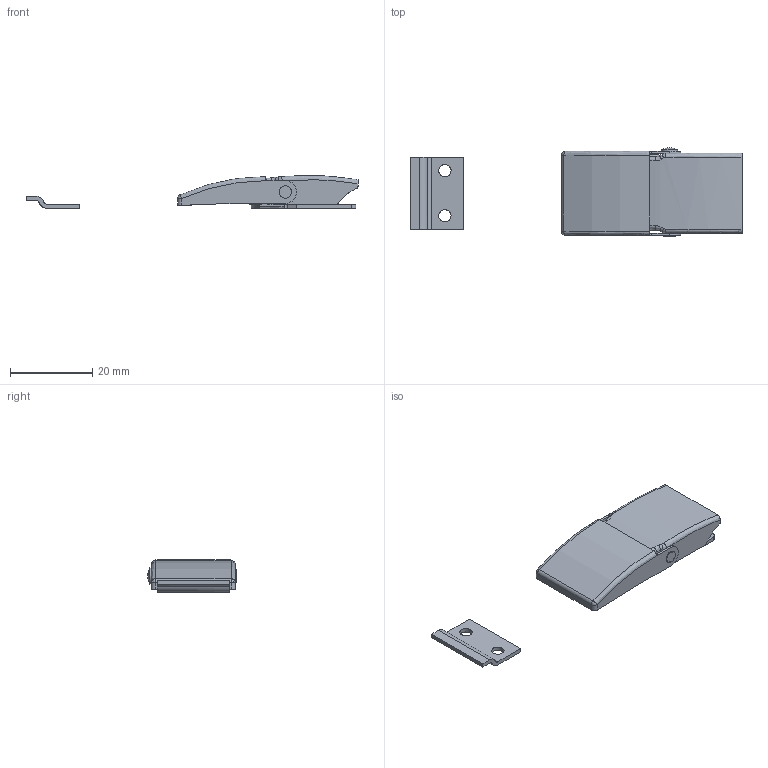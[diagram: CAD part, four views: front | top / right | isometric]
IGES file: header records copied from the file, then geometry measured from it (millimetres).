
Global section: file name: DR_C-M29; native system: Autodesk Inventor 2015; preprocessor: unknown; author: Administrator; date: 20180301.145700; units: millimetre
Bounding box: 80.84 x 21.5 x 7.99 mm (x, y, z)
Volume: 1919.9 mm3; surface area: 5667.6 mm2
Topology: 7 solids, 7 shells, 222 faces, 606 edges, 393 vertices
Faces by surface type: bspline 222
